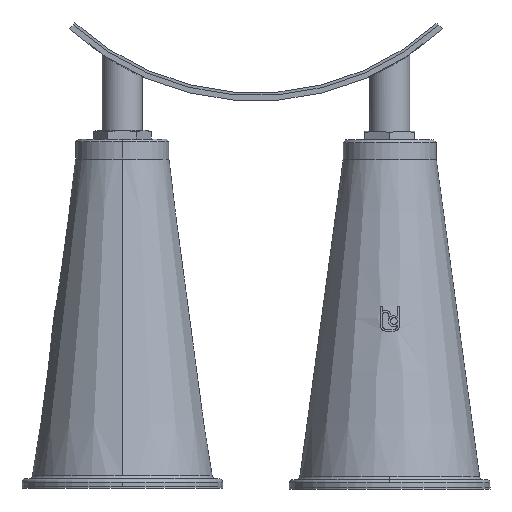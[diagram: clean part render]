
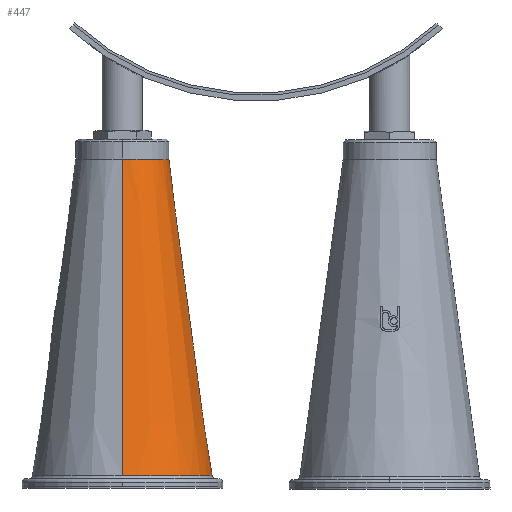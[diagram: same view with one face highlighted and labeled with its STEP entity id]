
A CAD part, front view. The second image highlights one B-rep face of the part: STEP entity #447.
In plain terms, the highlighted conical face has half-angle 7.768 degrees and reference radius 102.093 mm.
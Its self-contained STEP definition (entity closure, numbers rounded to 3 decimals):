
#447=ADVANCED_FACE('',(#964),#965,.T.);
#964=FACE_OUTER_BOUND('',#1615,.T.);
#965=CONICAL_SURFACE('',#1616,102.093,0.136);
#1615=EDGE_LOOP('',(#2618,#2619,#2620,#2621,#2622));
#1616=AXIS2_PLACEMENT_3D('',#2623,#2624,#2625);
#2618=ORIENTED_EDGE('',*,*,#3919,.T.);
#2619=ORIENTED_EDGE('',*,*,#4000,.F.);
#2620=ORIENTED_EDGE('',*,*,#3860,.F.);
#2621=ORIENTED_EDGE('',*,*,#3921,.T.);
#2622=ORIENTED_EDGE('',*,*,#4001,.T.);
#2623=CARTESIAN_POINT('',(-71.478,225.851,-11.148));
#2624=DIRECTION('',(0.,0.,-1.0));
#2625=DIRECTION('',(0.,-1.0,0.));
#3860=EDGE_CURVE('',#4593,#4595,#4596,.T.);
#3919=EDGE_CURVE('',#4700,#4701,#4702,.T.);
#3921=EDGE_CURVE('',#4593,#4703,#4705,.T.);
#4000=EDGE_CURVE('',#4595,#4701,#4829,.T.);
#4001=EDGE_CURVE('',#4703,#4700,#4830,.T.);
#4593=VERTEX_POINT('',#5995);
#4595=VERTEX_POINT('',#5997);
#4596=CIRCLE('',#5998,134.41);
#4700=VERTEX_POINT('',#6456);
#4701=VERTEX_POINT('',#6457);
#4702=LINE('',#6458,#6459);
#4703=VERTEX_POINT('',#6460);
#4705=LINE('',#6462,#6463);
#4829=CIRCLE('',#6947,134.41);
#4830=CIRCLE('',#6948,69.775);
#5995=CARTESIAN_POINT('',(-71.478,360.261,-248.042));
#5997=CARTESIAN_POINT('',(62.932,225.851,-248.042));
#5998=AXIS2_PLACEMENT_3D('',#8555,#8556,#8557);
#6456=CARTESIAN_POINT('',(-71.478,156.076,225.745));
#6457=CARTESIAN_POINT('',(-71.478,91.441,-248.042));
#6458=CARTESIAN_POINT('',(-71.478,123.758,-11.148));
#6459=VECTOR('',#8627,1.0);
#6460=CARTESIAN_POINT('',(-71.478,295.627,225.745));
#6462=CARTESIAN_POINT('',(-71.478,327.944,-11.148));
#6463=VECTOR('',#8631,1.0);
#6947=AXIS2_PLACEMENT_3D('',#8712,#8713,#8714);
#6948=AXIS2_PLACEMENT_3D('',#8715,#8716,#8717);
#8555=CARTESIAN_POINT('',(-71.478,225.851,-248.042));
#8556=DIRECTION('',(0.,0.,-1.0));
#8557=DIRECTION('',(0.,-1.0,0.));
#8627=DIRECTION('',(0.,-0.135,-0.991));
#8631=DIRECTION('',(0.,-0.135,0.991));
#8712=CARTESIAN_POINT('',(-71.478,225.851,-248.042));
#8713=DIRECTION('',(0.,0.,-1.0));
#8714=DIRECTION('',(0.,-1.0,0.));
#8715=CARTESIAN_POINT('',(-71.478,225.851,225.745));
#8716=DIRECTION('',(0.,0.,-1.0));
#8717=DIRECTION('',(0.,-1.0,0.));
